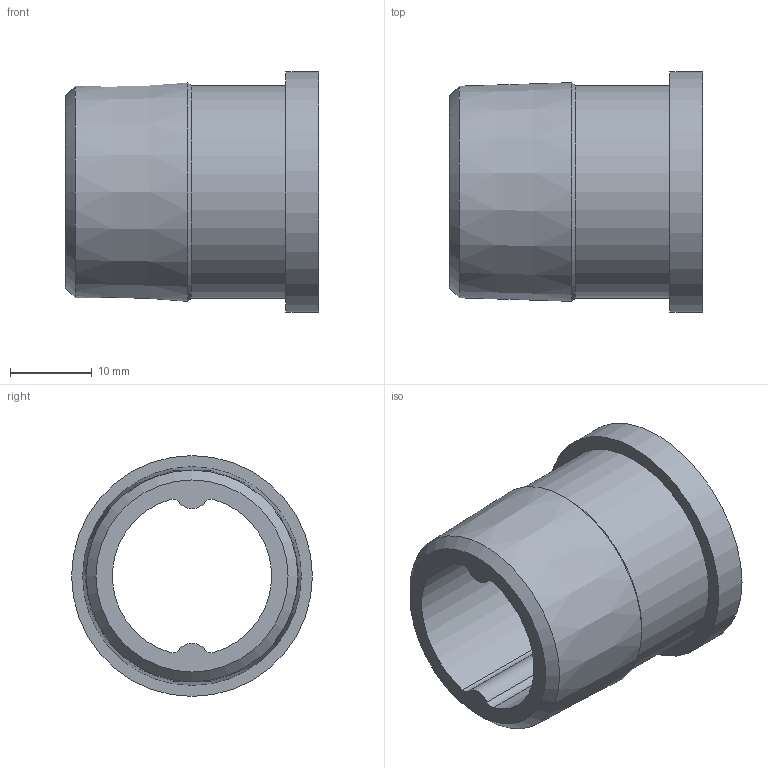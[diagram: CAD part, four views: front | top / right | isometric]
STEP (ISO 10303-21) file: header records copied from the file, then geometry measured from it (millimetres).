
FILE_DESCRIPTION(/* description */ (''),/* implementation_level */ '2;1');
FILE_NAME(/* name */ 'C:\Users\gomulka\Desktop\Nowy folder (2)\14371_34-1(2).stp',/* time_stamp */ '2017-10-19T09:50:20+02:00',/* author */ ('gomulka'),/* organization */ (''),/* preprocessor_version */ 'ST-DEVELOPER v15.6',/* originating_system */ 'Autodesk Inventor 2015',/* authorisation */ '');
FILE_SCHEMA (('AUTOMOTIVE_DESIGN { 1 0 10303 214 3 1 1 }'));
Length unit declared in the file: millimetre
Products named in the file (1): 14371_34-1(2)
Bounding box: 31 x 29.5 x 29.5 mm (x, y, z)
Volume: 8222.1 mm3; surface area: 5271 mm2
Topology: 1 solids, 1 shells, 16 faces, 36 edges, 23 vertices
Faces by surface type: cylinder 10, plane 3, cone 3
Full cylindrical faces by diameter (mm): 26 x1, 29.5 x1
Entity records: 462 total; most frequent: DIRECTION 88, CARTESIAN_POINT 71, ORIENTED_EDGE 62, AXIS2_PLACEMENT_3D 40, EDGE_CURVE 31, EDGE_LOOP 24, CIRCLE 23, VERTEX_POINT 23
